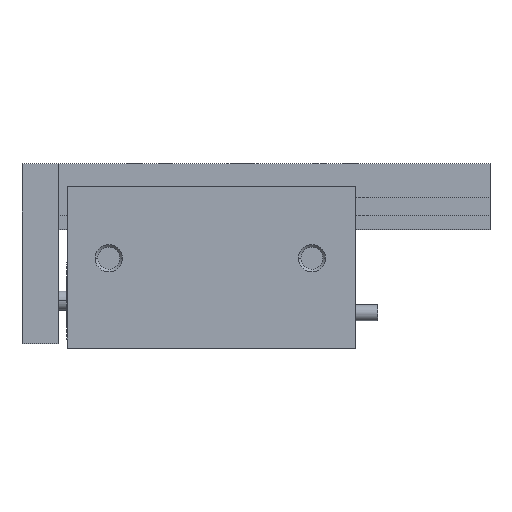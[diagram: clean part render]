
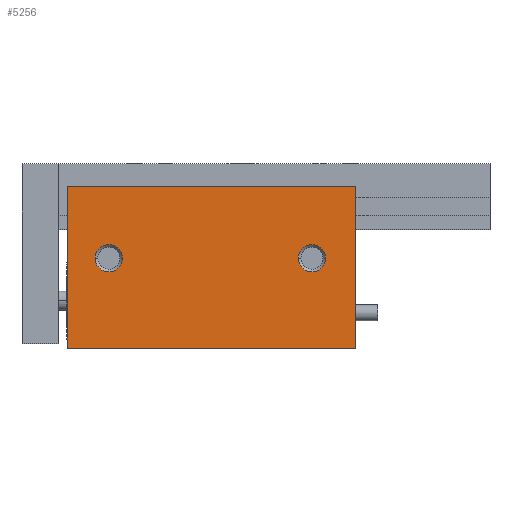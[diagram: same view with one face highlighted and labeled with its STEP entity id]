
A CAD part, top view. The second image highlights one B-rep face of the part: STEP entity #5256.
In plain terms, the highlighted planar face has unit normal (0, 0, 1) as drawn and (0, 0, -1) by its records, which use the part's own axes.
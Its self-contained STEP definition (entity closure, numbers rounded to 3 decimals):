
#42 = ORIENTED_EDGE ( 'NONE', *, *, #5599, .T. ) ;
#52 = AXIS2_PLACEMENT_3D ( 'NONE', #4019, #142, #4671 ) ;
#142 = DIRECTION ( 'NONE',  ( 0., 0., 1. ) ) ;
#385 = ORIENTED_EDGE ( 'NONE', *, *, #5519, .F. ) ;
#496 = CARTESIAN_POINT ( 'NONE',  ( 43.434, 1.575, -10.922 ) ) ;
#539 = ORIENTED_EDGE ( 'NONE', *, *, #4548, .T. ) ;
#703 = CIRCLE ( 'NONE', #52, 2.413 ) ;
#860 = DIRECTION ( 'NONE',  ( 0., 0., 1. ) ) ;
#1033 = VERTEX_POINT ( 'NONE', #5817 ) ;
#1099 = VECTOR ( 'NONE', #7903, 1000. ) ;
#1136 = DIRECTION ( 'NONE',  ( 1., 0., 0. ) ) ;
#1237 = EDGE_CURVE ( 'NONE', #8402, #5286, #3706, .T. ) ;
#1616 = FACE_BOUND ( 'NONE', #6744, .T. ) ;
#1709 = AXIS2_PLACEMENT_3D ( 'NONE', #6485, #2557, #7161 ) ;
#2016 = FACE_BOUND ( 'NONE', #6113, .T. ) ;
#2045 = VERTEX_POINT ( 'NONE', #3090 ) ;
#2550 = DIRECTION ( 'NONE',  ( 0., 0., 1. ) ) ;
#2557 = DIRECTION ( 'NONE',  ( 0., 0., 1. ) ) ;
#2605 = LINE ( 'NONE', #2643, #1099 ) ;
#2611 = LINE ( 'NONE', #6803, #5902 ) ;
#2643 = CARTESIAN_POINT ( 'NONE',  ( 0., -14.275, -10.922 ) ) ;
#3037 = ORIENTED_EDGE ( 'NONE', *, *, #4713, .T. ) ;
#3090 = CARTESIAN_POINT ( 'NONE',  ( 45.847, 1.575, -10.922 ) ) ;
#3112 = CARTESIAN_POINT ( 'NONE',  ( 50.8, -14.275, -10.922 ) ) ;
#3192 = CARTESIAN_POINT ( 'NONE',  ( 0., -14.275, -10.922 ) ) ;
#3241 = LINE ( 'NONE', #4102, #4767 ) ;
#3326 = ORIENTED_EDGE ( 'NONE', *, *, #1237, .T. ) ;
#3457 = DIRECTION ( 'NONE',  ( -1., 0., 0. ) ) ;
#3567 = AXIS2_PLACEMENT_3D ( 'NONE', #7153, #2550, #4525 ) ;
#3706 = CIRCLE ( 'NONE', #3794, 2.413 ) ;
#3794 = AXIS2_PLACEMENT_3D ( 'NONE', #4745, #860, #5410 ) ;
#3862 = PLANE ( 'NONE',  #3567 ) ;
#3931 = CARTESIAN_POINT ( 'NONE',  ( 0., 14.275, -10.922 ) ) ;
#4019 = CARTESIAN_POINT ( 'NONE',  ( 7.62, 1.575, -10.922 ) ) ;
#4102 = CARTESIAN_POINT ( 'NONE',  ( 50.8, -14.275, -10.922 ) ) ;
#4304 = EDGE_CURVE ( 'NONE', #8086, #4783, #6232, .T. ) ;
#4494 = AXIS2_PLACEMENT_3D ( 'NONE', #496, #5025, #1136 ) ;
#4525 = DIRECTION ( 'NONE',  ( 1., 0., 0. ) ) ;
#4548 = EDGE_CURVE ( 'NONE', #1033, #2045, #6124, .T. ) ;
#4671 = DIRECTION ( 'NONE',  ( 1., 0., 0. ) ) ;
#4713 = EDGE_CURVE ( 'NONE', #2045, #1033, #5092, .T. ) ;
#4745 = CARTESIAN_POINT ( 'NONE',  ( 7.62, 1.575, -10.922 ) ) ;
#4767 = VECTOR ( 'NONE', #4769, 1000. ) ;
#4769 = DIRECTION ( 'NONE',  ( 0., 1., 0. ) ) ;
#4783 = VERTEX_POINT ( 'NONE', #3931 ) ;
#4870 = FACE_OUTER_BOUND ( 'NONE', #7596, .T. ) ;
#5025 = DIRECTION ( 'NONE',  ( 0., 0., 1. ) ) ;
#5092 = CIRCLE ( 'NONE', #1709, 2.413 ) ;
#5145 = VERTEX_POINT ( 'NONE', #3112 ) ;
#5256 = ADVANCED_FACE ( 'NONE', ( #1616, #4870, #2016 ), #3862, .F. ) ;
#5286 = VERTEX_POINT ( 'NONE', #7872 ) ;
#5410 = DIRECTION ( 'NONE',  ( 1., 0., 0. ) ) ;
#5519 = EDGE_CURVE ( 'NONE', #5145, #8086, #3241, .T. ) ;
#5539 = CARTESIAN_POINT ( 'NONE',  ( 50.8, 14.275, -10.922 ) ) ;
#5599 = EDGE_CURVE ( 'NONE', #5145, #6446, #2611, .T. ) ;
#5817 = CARTESIAN_POINT ( 'NONE',  ( 41.021, 1.575, -10.922 ) ) ;
#5902 = VECTOR ( 'NONE', #7479, 1000. ) ;
#6028 = VECTOR ( 'NONE', #3457, 1000. ) ;
#6044 = EDGE_CURVE ( 'NONE', #6446, #4783, #2605, .T. ) ;
#6074 = CARTESIAN_POINT ( 'NONE',  ( 50.8, 14.275, -10.922 ) ) ;
#6083 = EDGE_CURVE ( 'NONE', #5286, #8402, #703, .T. ) ;
#6113 = EDGE_LOOP ( 'NONE', ( #539, #3037 ) ) ;
#6124 = CIRCLE ( 'NONE', #4494, 2.413 ) ;
#6127 = ORIENTED_EDGE ( 'NONE', *, *, #6083, .T. ) ;
#6232 = LINE ( 'NONE', #6074, #6028 ) ;
#6245 = ORIENTED_EDGE ( 'NONE', *, *, #6044, .T. ) ;
#6446 = VERTEX_POINT ( 'NONE', #3192 ) ;
#6485 = CARTESIAN_POINT ( 'NONE',  ( 43.434, 1.575, -10.922 ) ) ;
#6744 = EDGE_LOOP ( 'NONE', ( #3326, #6127 ) ) ;
#6803 = CARTESIAN_POINT ( 'NONE',  ( 50.8, -14.275, -10.922 ) ) ;
#6918 = ORIENTED_EDGE ( 'NONE', *, *, #4304, .F. ) ;
#7153 = CARTESIAN_POINT ( 'NONE',  ( 50.8, -14.275, -10.922 ) ) ;
#7161 = DIRECTION ( 'NONE',  ( 1., 0., 0. ) ) ;
#7479 = DIRECTION ( 'NONE',  ( -1., 0., 0. ) ) ;
#7596 = EDGE_LOOP ( 'NONE', ( #6245, #6918, #385, #42 ) ) ;
#7872 = CARTESIAN_POINT ( 'NONE',  ( 10.033, 1.575, -10.922 ) ) ;
#7903 = DIRECTION ( 'NONE',  ( 0., 1., 0. ) ) ;
#8086 = VERTEX_POINT ( 'NONE', #5539 ) ;
#8370 = CARTESIAN_POINT ( 'NONE',  ( 5.207, 1.575, -10.922 ) ) ;
#8402 = VERTEX_POINT ( 'NONE', #8370 ) ;
